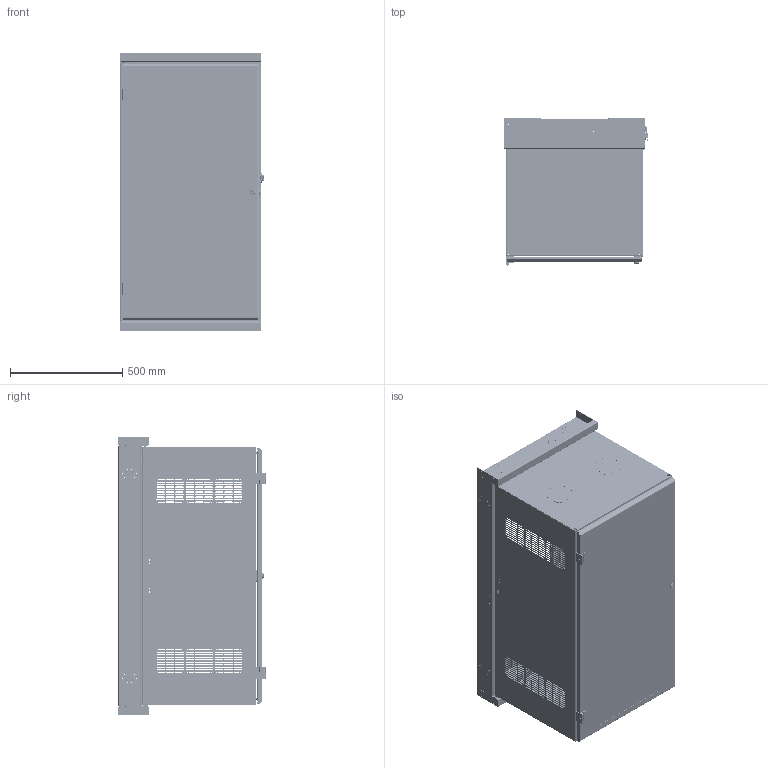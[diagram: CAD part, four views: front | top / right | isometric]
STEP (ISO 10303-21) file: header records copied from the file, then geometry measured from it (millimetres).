
FILE_DESCRIPTION(/* description */ ('Unknown'),/* implementation_level */ '2;1');
FILE_NAME(/* name */ 'HWM2424U20WDBK',/* time_stamp */ '2024-07-29T14:53:19-04:00',/* author */ ('Unknown'),/* organization */ ('Unknown'),/* preprocessor_version */ 'ST-DEVELOPER v18.104',/* originating_system */ 'Solid Edge',/* authorisation */ 'Unknown');
FILE_SCHEMA (('AUTOMOTIVE_DESIGN {1 0 10303 214 3 1 1}'));
Products named in the file (50): HWM2424U20WD; COM57687-8; COM56894-2T; STD21878; COM57684-8; HNG14583; COM54375; COM57382-23; COM57384-3; COM57383-1; BSH87667; COM56897-3; FET07734; STR22105; CCH03747; CCH03748-10deg; CCH03748D; CCH03748B; CCH03748E; CCH03748A; CCH03748C; COM57345; LAB20204; COM56905; LOC13349; LOC13349B; LOC13349A; COM57690-24U; FET07750; COM56910-3; COM57690-3; std26020; COM57333-43; LOC13410; LOC13410B; HNG14605; HNG14605-1; HNG14604-1A; HNG14604-1B; HNG14605-1C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
Assembly tree (89 placements, depth 5):
  HWM2424U20WD
    COM57687-8
      COM56894-2T  x2
        STD21878
        COM56894-2T
      COM57684-8  x2
      HNG14583
      COM54375
    COM57382-23
      COM57384-3  x2
      COM57383-1  x2
        STD21878
        COM57383-1
      BSH87667  x4
    COM56897-3  x2
    FET07734  x4
    STR22105
    CCH03747
    CCH03748-10deg
      CCH03748D
      CCH03748B
      CCH03748E
      CCH03748A
      CCH03748C
    COM57345
    LAB20204
    COM56905
    LOC13349
      LOC13349B
      LOC13349A
    COM57690-24U
      FET07750  x2
      COM56910-3  x2
      COM57690-3
        COM57690-3
        std26020  x10
      COM57333-43
      LOC13410
        LOC13410B
        LOC13349A
      HNG14605
        HNG14605-1
          HNG14604-1A
          HNG14604-1B
          HNG14605-1C
        HNG14604-2  x2
        HNG14605-3
      HNG14604
        HNG14604-3
        HNG14604-2  x2
        HNG14604-1
          HNG14604-1A
          HNG14604-1B
          HNG14604-1C
      NTS17050  x8
Bounding box: 641.2 x 654.87 x 1239.82 mm (x, y, z)
Volume: 8183074.6 mm3; surface area: 9318891.1 mm2
Topology: 82 solids, 82 shells, 5270 faces, 14635 edges, 9780 vertices
Faces by surface type: plane 3146, cylinder 2002, bspline 53, cone 48, torus 17, sphere 4
Full cylindrical faces by diameter (mm): 2.54 x2, 3.048 x2, 3.175 x54, 3.454 x4, 3.962 x8, 3.967 x8, 4.039 x8, 4.297 x2, 4.496 x144, 4.775 x60, 4.978 x1, 5.334 x6, 5.461 x2, 5.537 x8, 6 x4, 6.02 x2, 6.1 x2, 6.2 x8, 6.35 x24, 7.137 x8, 7.938 x12, 8.992 x2, 9.246 x4, 9.95 x8, 10 x2, 10.312 x12, 11.125 x2, 11.684 x2, 12.7 x12, 13.005 x1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
Entity records: 94480 total; most frequent: CARTESIAN_POINT 18881, DIRECTION 15274, ORIENTED_EDGE 14986, EDGE_CURVE 7493, AXIS2_PLACEMENT_3D 5212, VERTEX_POINT 5112, LINE 4850, VECTOR 4850
